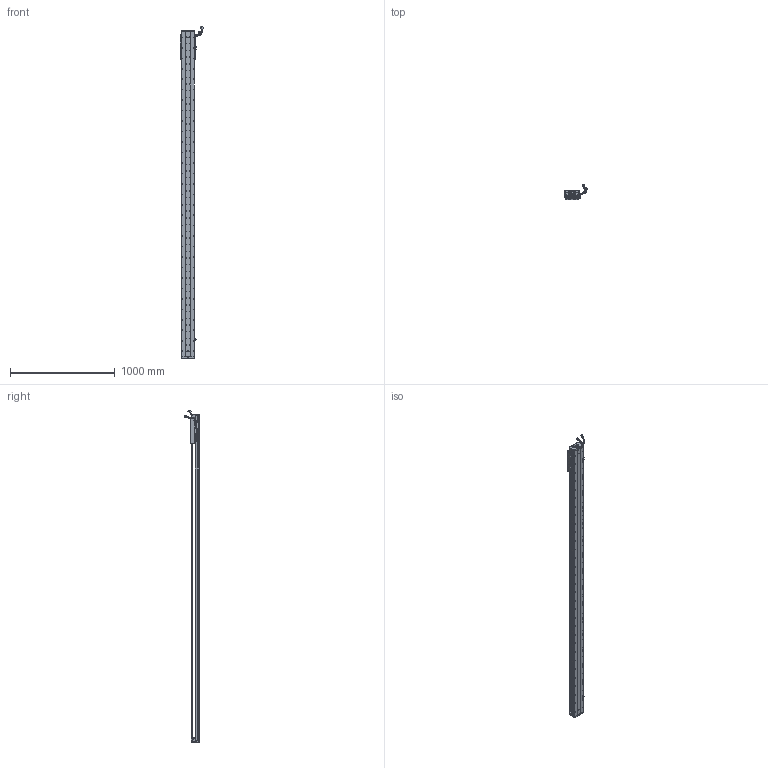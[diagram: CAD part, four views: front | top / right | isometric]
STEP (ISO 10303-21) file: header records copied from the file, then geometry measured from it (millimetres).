
FILE_DESCRIPTION (( 'STEP AP203' ), '1' );
FILE_NAME ('Z3-RY120D-1-L500-B-K.SLDASM_2800.step', '2021-05-17T05:51:27', ( '盈信电脑' ), ( '东莞市道滘镇水果街19号' ), 'SwSTEP 2.0', 'SolidWorks 2016', '' );
FILE_SCHEMA (( 'CONFIG_CONTROL_DESIGN' ));
Length unit declared in the file: millimetre
Products named in the file (37): RY100FB-遵嫖萇覜茼え; HARNESS-Part-1; Z3-RY120铝滑块（21款）; COVER; 080黍杅芛假蚾釱21遴; Z-RY120D詩湍狟揤裔; 672嫖萇羲壽假蚾釱; SCREW-M1.6-1; SHIELDPLATE; HARNESS; SCALE-Part-2; Z-RY120D詩湍奻揤裔; HARNESS-Part-2; 榋妏寠巭燃_暯_M2_2; PSLH080_PSLF2; SCREW-M1.7-1; 140雄赽晤鎢ん堤盄; SCALE-Part-1; SCREW-M1.6-2; SCREW-M1.6; SEAL-Part-1; 140蚥薯蝶輸; 120-Z-臏賑輸盄裔(21遴); Z-120詩湍傷裔啣; Z3-RY120-L500詩湍100mm遵_2800; 覜茼ん672; SCREW-M1.7; HOLDER0; PBU_SHEET; SCALE; LABEL-Part-1; SEAL; SCREW-M1.6-3; Z3-RY120D-1-L500-B-K.SLDASM_2800; LABEL; Z3-RY120-500-倰第菁釱_2800; COVER-Part-1
Assembly tree (43 placements, depth 4):
  Z3-RY120D-1-L500-B-K.SLDASM_2800
    Z3-RY120-500-倰第菁釱_2800
    覜茼ん672  x3
    672嫖萇羲壽假蚾釱  x2
    Z3-RY120铝滑块（21款）
    PSLH080_PSLF2
      SCALE
        SCALE-Part-1
        SCALE-Part-2
      HARNESS
        HARNESS-Part-1
        HARNESS-Part-2
      LABEL
        LABEL-Part-1
      COVER
        COVER-Part-1
      SEAL
        SEAL-Part-1
      榋妏寠巭燃_暯_M2_2
      SHIELDPLATE
      SCREW-M1.7
      SCREW-M1.7-1
      PBU_SHEET
      SCREW-M1.6
      SCREW-M1.6-1
      SCREW-M1.6-2
      SCREW-M1.6-3
      HOLDER0
    080黍杅芛假蚾釱21遴
    120-Z-臏賑輸盄裔(21遴)
    140雄赽晤鎢ん堤盄
    140蚥薯蝶輸  x2
    RY100FB-遵嫖萇覜茼え
    Z-120詩湍傷裔啣  x2
    Z-RY120D詩湍奻揤裔  x2
    Z-RY120D詩湍狟揤裔  x2
    Z3-RY120-L500詩湍100mm遵_2800
Bounding box: 222.83 x 140.94 x 3173.99 mm (x, y, z)
Volume: 7291876.5 mm3; surface area: 2563274 mm2
Topology: 38 solids, 38 shells, 3969 faces, 11429 edges, 7208 vertices
Faces by surface type: cylinder 2141, plane 1288, cone 418, torus 69, bspline 53
Entity records: 136250 total; most frequent: CARTESIAN_POINT 42727, ORIENTED_EDGE 19546, DIRECTION 17679, EDGE_CURVE 9773, AXIS2_PLACEMENT_3D 6554, VERTEX_POINT 6328, LINE 4571, VECTOR 4571
